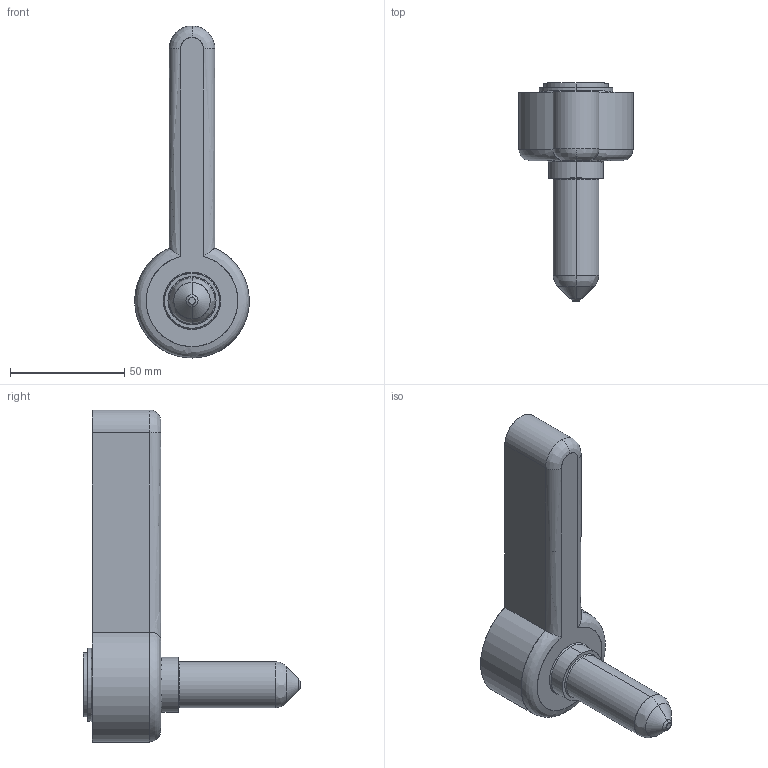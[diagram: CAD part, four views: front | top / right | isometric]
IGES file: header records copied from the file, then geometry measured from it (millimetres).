
Start section: SolidWorks IGES file using analytic representation for surfaces
Global section: file name: C:\Documents and Settings\ws-20\Desktop\TEM\Sede UGGS2530-S-1 C-61 L-93 Ød-3.0.IGS; native system: SolidWorks 2012; preprocessor: SolidWorks 2012; author: ws-20; date: 120516.094231; units: millimetre
Bounding box: 49.97 x 95.21 x 145 mm (x, y, z)
Surface area: 22724.1 mm2 (no closed solid volume)
Topology: 0 solids, 0 shells, 39 faces, 706 edges, 706 vertices
Faces by surface type: revolution 25, bspline 14
